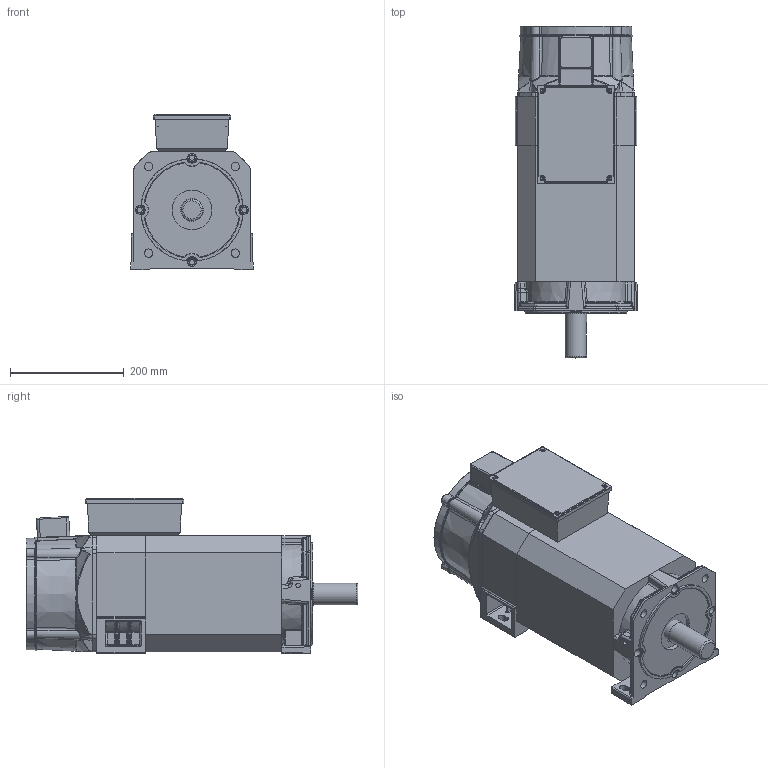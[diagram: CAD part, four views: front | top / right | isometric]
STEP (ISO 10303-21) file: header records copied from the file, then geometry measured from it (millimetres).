
FILE_DESCRIPTION(/* description */ (''),/* implementation_level */ '2;1');
FILE_NAME(/* name */ '204ZJY-4-7.5-15.stp',/* time_stamp */ '2024-01-15T15:29:34+08:00',/* author */ (''),/* organization */ (''),/* preprocessor_version */ 'ST-DEVELOPER v18.1',/* originating_system */ 'SIEMENS PLM Software NX 2000',/* authorisation */ '');
FILE_SCHEMA (('AUTOMOTIVE_DESIGN { 1 0 10303 214 3 1 1 1 }'));
Products named in the file (1): 204ZJY-4-3.7-15电机外形图(立卧通用)
Bounding box: 215.99 x 583 x 273 mm (x, y, z)
Volume: 19768135 mm3; surface area: 945289.4 mm2
Topology: 8 solids, 8 shells, 1690 faces, 4112 edges, 2368 vertices
Faces by surface type: cylinder 624, torus 449, plane 300, bspline 223, cone 52, sphere 42
Full cylindrical faces by diameter (mm): 4 x1, 5 x4, 6 x5, 7 x8, 7.5 x4, 8 x2, 9.5 x8, 11 x8, 13.5 x4, 14.5 x4, 15 x4, 38 x1, 39.8 x1, 70 x1, 187 x1
Entity records: 54994 total; most frequent: CARTESIAN_POINT 20005, ORIENTED_EDGE 7824, DIRECTION 6365, EDGE_CURVE 3912, AXIS2_PLACEMENT_3D 2678, VERTEX_POINT 2325, EDGE_LOOP 1861, ADVANCED_FACE 1690
